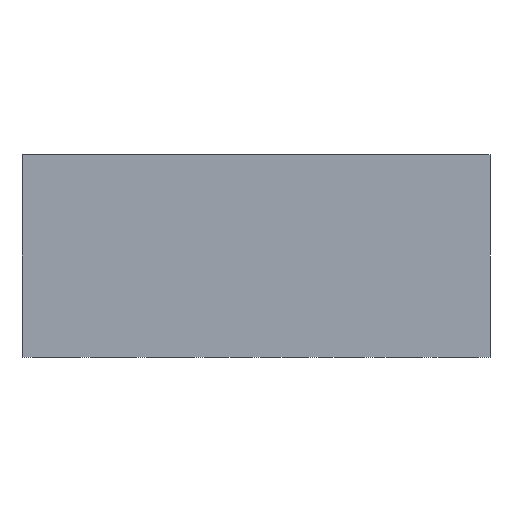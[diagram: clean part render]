
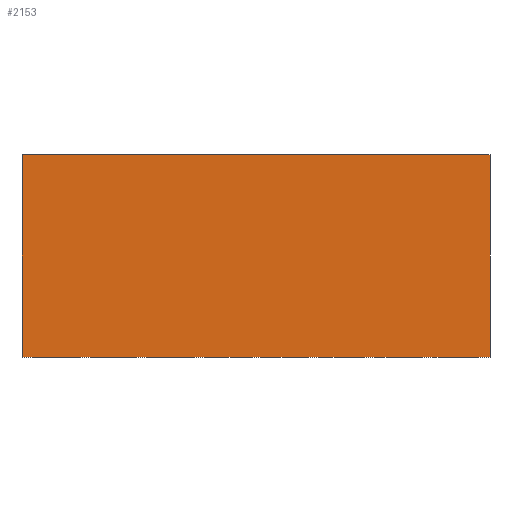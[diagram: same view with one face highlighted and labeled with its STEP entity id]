
A CAD part, front view. The second image highlights one B-rep face of the part: STEP entity #2153.
In plain terms, the highlighted planar face has unit normal (0, -1, 0).
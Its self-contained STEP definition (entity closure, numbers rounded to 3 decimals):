
#9=DIRECTION('',(0.,0.,-1.));
#10=VECTOR('',#9,7.1);
#11=CARTESIAN_POINT('',(-8.2,-2.,0.));
#12=LINE('134',#11,#10);
#197=DIRECTION('',(0.,0.,-1.));
#198=VECTOR('',#197,7.1);
#199=CARTESIAN_POINT('',(8.2,-2.,0.));
#200=LINE('138',#199,#198);
#205=DIRECTION('',(1.,0.,0.));
#206=VECTOR('',#205,16.4);
#207=CARTESIAN_POINT('',(-8.2,-2.,-7.1));
#208=LINE('142',#207,#206);
#337=DIRECTION('',(1.,0.,0.));
#338=VECTOR('',#337,16.4);
#339=CARTESIAN_POINT('',(-8.2,-2.,0.));
#340=LINE('141',#339,#338);
#1305=CARTESIAN_POINT('',(-8.2,-2.,0.));
#1306=VERTEX_POINT('',#1305);
#1307=CARTESIAN_POINT('',(-8.2,-2.,-7.1));
#1308=VERTEX_POINT('',#1307);
#1313=CARTESIAN_POINT('',(8.2,-2.,0.));
#1314=VERTEX_POINT('',#1313);
#1315=CARTESIAN_POINT('',(8.2,-2.,-7.1));
#1316=VERTEX_POINT('',#1315);
#2142=CARTESIAN_POINT('',(-8.2,-2.,0.));
#2143=DIRECTION('',(0.,-1.,0.));
#2144=DIRECTION('',(0.,0.,-1.));
#2145=AXIS2_PLACEMENT_3D('',#2142,#2143,#2144);
#2146=PLANE('6',#2145);
#2147=ORIENTED_EDGE('134',*,*,#1722,.F.);
#2148=ORIENTED_EDGE('141',*,*,#1947,.T.);
#2149=ORIENTED_EDGE('138',*,*,#2043,.T.);
#2150=ORIENTED_EDGE('142',*,*,#2055,.F.);
#2151=EDGE_LOOP('6',(#2147,#2148,#2149,#2150));
#2152=FACE_OUTER_BOUND('6',#2151,.F.);
#2153=ADVANCED_FACE('6',(#2152),#2146,.T.);
#1722=EDGE_CURVE('134',#1306,#1308,#12,.T.);
#1947=EDGE_CURVE('141',#1306,#1314,#340,.T.);
#2043=EDGE_CURVE('138',#1314,#1316,#200,.T.);
#2055=EDGE_CURVE('142',#1308,#1316,#208,.T.);
